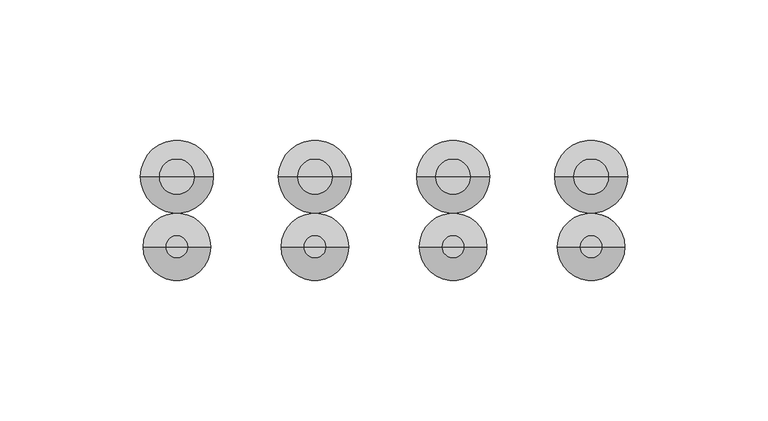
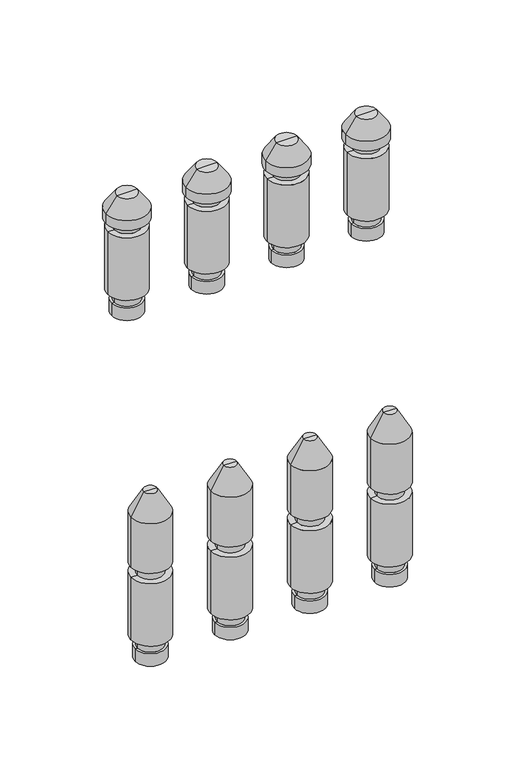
"""IFC4 building model written with IfcOpenShell, lengths in millimetres: valve geometry, PL AT_Manifold_FT-EV : 11 circuits."""

from ifc_helpers import new_model, si_unit, frame, origin, place, context, project, spatial, polyline, circle_curve, source, transform, mapped, element, save
from ifc_brep_helpers import plane_surface, cylinder_surface, revolved_surface, advanced_brep


def valve_5647343c(model_context):
    return source(origin(), model_context, "Body", "AdvancedBrep", [
        advanced_brep(
        [(475.3, 0.0, -35.11267), (494.3, 0.0, -35.11267), (484.8, 0.0, -35.11267), (475.3, 0.0, -27.0369646), (494.3, 0.0, -27.0369646), (476.8, 0.0, -27.0369646), (492.8, 0.0, -27.0369646), (476.8, 0.0, -20.330253), (492.8, 0.0, -20.330253), (472.8, 0.0, -20.330253), (496.8, 0.0, -20.330253), (472.8, 0.0, 20.330253), (496.8, 0.0, 20.330253), (476.8, 0.0, 20.330253), (492.8, 0.0, 20.330253), (476.8, 0.0, 27.0474786), (492.8, 0.0, 27.0474786), (472.8, 0.0, 27.0474786), (496.8, 0.0, 27.0474786), (472.8, 0.0, 59.4084325), (496.8, 0.0, 59.4084325), (480.8, 0.0, 73.264839), (488.8, 0.0, 73.264839), (484.8, 0.0, 73.264839)],
        [
            (0, 1, circle_curve(frame((484.8, 0.0, -35.11267), z_axis=(0.0, 0.0, -1.0), x_axis=(1.0, 0.0, 0.0)), 9.5)),
            (1, 2),
            (2, 0),
            (1, 0, circle_curve(frame((484.8, 0.0, -35.11267), z_axis=(0.0, 0.0, -1.0), x_axis=(1.0, 0.0, 0.0)), 9.5)),
            (3, 4, circle_curve(frame((484.8, 0.0, -27.0369646), z_axis=(0.0, 0.0, -1.0), x_axis=(1.0, 0.0, 0.0)), 9.5)),
            (4, 1),
            (0, 3),
            (4, 3, circle_curve(frame((484.8, 0.0, -27.0369646), z_axis=(0.0, 0.0, -1.0), x_axis=(1.0, 0.0, 0.0)), 9.5)),
            (5, 6, circle_curve(frame((484.8, 0.0, -27.0369646), z_axis=(0.0, 0.0, -1.0), x_axis=(1.0, 0.0, 0.0)), 8.0)),
            (6, 4),
            (3, 5),
            (6, 5, circle_curve(frame((484.8, 0.0, -27.0369646), z_axis=(0.0, 0.0, -1.0), x_axis=(1.0, 0.0, 0.0)), 8.0)),
            (7, 8, circle_curve(frame((484.8, 0.0, -20.330253), z_axis=(0.0, 0.0, -1.0), x_axis=(1.0, 0.0, 0.0)), 8.0)),
            (8, 6),
            (5, 7),
            (8, 7, circle_curve(frame((484.8, 0.0, -20.330253), z_axis=(0.0, 0.0, -1.0), x_axis=(1.0, 0.0, 0.0)), 8.0)),
            (9, 10, circle_curve(frame((484.8, 0.0, -20.330253), z_axis=(0.0, 0.0, -1.0), x_axis=(1.0, 0.0, 0.0)), 12.0)),
            (10, 8),
            (7, 9),
            (10, 9, circle_curve(frame((484.8, 0.0, -20.330253), z_axis=(0.0, 0.0, -1.0), x_axis=(1.0, 0.0, 0.0)), 12.0)),
            (11, 12, circle_curve(frame((484.8, 0.0, 20.330253), z_axis=(0.0, 0.0, -1.0), x_axis=(1.0, 0.0, 0.0)), 12.0)),
            (12, 10),
            (9, 11),
            (12, 11, circle_curve(frame((484.8, 0.0, 20.330253), z_axis=(0.0, 0.0, -1.0), x_axis=(1.0, 0.0, 0.0)), 12.0)),
            (13, 14, circle_curve(frame((484.8, 0.0, 20.330253), z_axis=(0.0, 0.0, -1.0), x_axis=(1.0, 0.0, 0.0)), 8.0)),
            (14, 12),
            (11, 13),
            (14, 13, circle_curve(frame((484.8, 0.0, 20.330253), z_axis=(0.0, 0.0, -1.0), x_axis=(1.0, 0.0, 0.0)), 8.0)),
            (15, 16, circle_curve(frame((484.8, 0.0, 27.0474786), z_axis=(0.0, 0.0, -1.0), x_axis=(1.0, 0.0, 0.0)), 8.0)),
            (16, 14),
            (13, 15),
            (16, 15, circle_curve(frame((484.8, 0.0, 27.0474786), z_axis=(0.0, 0.0, -1.0), x_axis=(1.0, 0.0, 0.0)), 8.0)),
            (17, 18, circle_curve(frame((484.8, 0.0, 27.0474786), z_axis=(0.0, 0.0, -1.0), x_axis=(1.0, 0.0, 0.0)), 12.0)),
            (18, 16),
            (15, 17),
            (18, 17, circle_curve(frame((484.8, 0.0, 27.0474786), z_axis=(0.0, 0.0, -1.0), x_axis=(1.0, 0.0, 0.0)), 12.0)),
            (19, 20, circle_curve(frame((484.8, 0.0, 59.4084325), z_axis=(0.0, 0.0, -1.0), x_axis=(1.0, 0.0, 0.0)), 12.0)),
            (20, 18),
            (17, 19),
            (20, 19, circle_curve(frame((484.8, 0.0, 59.4084325), z_axis=(0.0, 0.0, -1.0), x_axis=(1.0, 0.0, 0.0)), 12.0)),
            (21, 22, circle_curve(frame((484.8, 0.0, 73.264839), z_axis=(0.0, 0.0, -1.0), x_axis=(1.0, 0.0, 0.0)), 4.0)),
            (22, 20),
            (19, 21),
            (22, 21, circle_curve(frame((484.8, 0.0, 73.264839), z_axis=(0.0, 0.0, -1.0), x_axis=(1.0, 0.0, 0.0)), 4.0)),
            (23, 22),
            (21, 23),
        ],
        [
            plane_surface(frame((484.8, 0.0, -35.11267), z_axis=(0.0, 0.0, -1.0), x_axis=(1.0, 0.0, 0.0))),
            cylinder_surface(frame((484.8, 0.0, 58.264839), z_axis=(0.0, 0.0, 1.0), x_axis=(1.0, 0.0, 0.0)), 9.5),
            plane_surface(frame((484.8, 0.0, -27.0369646), z_axis=(0.0, 0.0, 1.0), x_axis=(1.0, 0.0, 0.0))),
            cylinder_surface(frame((484.8, 0.0, 58.264839), z_axis=(0.0, 0.0, 1.0), x_axis=(1.0, 0.0, 0.0)), 8.0),
            plane_surface(frame((484.8, 0.0, -20.330253), z_axis=(0.0, 0.0, -1.0), x_axis=(1.0, 0.0, 0.0))),
            cylinder_surface(frame((484.8, 0.0, 58.264839), z_axis=(0.0, 0.0, 1.0), x_axis=(1.0, 0.0, 0.0)), 12.0),
            plane_surface(frame((484.8, 0.0, 20.330253), z_axis=(0.0, 0.0, 1.0), x_axis=(1.0, 0.0, 0.0))),
            plane_surface(frame((484.8, 0.0, 27.0474786), z_axis=(0.0, 0.0, -1.0), x_axis=(1.0, 0.0, 0.0))),
            revolved_surface(polyline([(496.8, 0.0, 59.4084325), (488.8, 0.0, 73.264839)]), (484.8, 0.0, 58.264839), (0.0, 0.0, 1.0)),
            plane_surface(frame((484.8, 0.0, 73.264839), z_axis=(0.0, 0.0, 1.0), x_axis=(1.0, 0.0, 0.0))),
        ],
        [
            (0, [[1, 2, 3]]),
            (0, [[4, -3, -2]]),
            (1, [[5, 6, -1, 7]]),
            (1, [[8, -7, -4, -6]]),
            (2, [[9, 10, -5, 11]]),
            (2, [[12, -11, -8, -10]]),
            (3, [[13, 14, -9, 15]]),
            (3, [[16, -15, -12, -14]]),
            (4, [[17, 18, -13, 19]]),
            (4, [[20, -19, -16, -18]]),
            (5, [[21, 22, -17, 23]]),
            (5, [[24, -23, -20, -22]]),
            (6, [[25, 26, -21, 27]]),
            (6, [[28, -27, -24, -26]]),
            (3, [[29, 30, -25, 31]]),
            (3, [[32, -31, -28, -30]]),
            (7, [[33, 34, -29, 35]]),
            (7, [[36, -35, -32, -34]]),
            (5, [[37, 38, -33, 39]]),
            (5, [[40, -39, -36, -38]]),
            (8, [[41, 42, -37, 43]]),
            (8, [[44, -43, -40, -42]]),
            (9, [[45, -41, 46]]),
            (9, [[-46, -44, -45]]),
        ],
    ),
        advanced_brep(
        [(426.1, 0.0, -35.11267), (445.1, 0.0, -35.11267), (435.6, 0.0, -35.11267), (426.1, 0.0, -27.0369646), (445.1, 0.0, -27.0369646), (427.6, 0.0, -27.0369646), (443.6, 0.0, -27.0369646), (427.6, 0.0, -20.330253), (443.6, 0.0, -20.330253), (423.6, 0.0, -20.330253), (447.6, 0.0, -20.330253), (423.6, 0.0, 20.330253), (447.6, 0.0, 20.330253), (427.6, 0.0, 20.330253), (443.6, 0.0, 20.330253), (427.6, 0.0, 27.0474786), (443.6, 0.0, 27.0474786), (423.6, 0.0, 27.0474786), (447.6, 0.0, 27.0474786), (423.6, 0.0, 59.4084325), (447.6, 0.0, 59.4084325), (431.6, 0.0, 73.264839), (439.6, 0.0, 73.264839), (435.6, 0.0, 73.264839)],
        [
            (0, 1, circle_curve(frame((435.6, 0.0, -35.11267), z_axis=(0.0, 0.0, -1.0), x_axis=(1.0, 0.0, 0.0)), 9.5)),
            (1, 2),
            (2, 0),
            (1, 0, circle_curve(frame((435.6, 0.0, -35.11267), z_axis=(0.0, 0.0, -1.0), x_axis=(1.0, 0.0, 0.0)), 9.5)),
            (3, 4, circle_curve(frame((435.6, 0.0, -27.0369646), z_axis=(0.0, 0.0, -1.0), x_axis=(1.0, 0.0, 0.0)), 9.5)),
            (4, 1),
            (0, 3),
            (4, 3, circle_curve(frame((435.6, 0.0, -27.0369646), z_axis=(0.0, 0.0, -1.0), x_axis=(1.0, 0.0, 0.0)), 9.5)),
            (5, 6, circle_curve(frame((435.6, 0.0, -27.0369646), z_axis=(0.0, 0.0, -1.0), x_axis=(1.0, 0.0, 0.0)), 8.0)),
            (6, 4),
            (3, 5),
            (6, 5, circle_curve(frame((435.6, 0.0, -27.0369646), z_axis=(0.0, 0.0, -1.0), x_axis=(1.0, 0.0, 0.0)), 8.0)),
            (7, 8, circle_curve(frame((435.6, 0.0, -20.330253), z_axis=(0.0, 0.0, -1.0), x_axis=(1.0, 0.0, 0.0)), 8.0)),
            (8, 6),
            (5, 7),
            (8, 7, circle_curve(frame((435.6, 0.0, -20.330253), z_axis=(0.0, 0.0, -1.0), x_axis=(1.0, 0.0, 0.0)), 8.0)),
            (9, 10, circle_curve(frame((435.6, 0.0, -20.330253), z_axis=(0.0, 0.0, -1.0), x_axis=(1.0, 0.0, 0.0)), 12.0)),
            (10, 8),
            (7, 9),
            (10, 9, circle_curve(frame((435.6, 0.0, -20.330253), z_axis=(0.0, 0.0, -1.0), x_axis=(1.0, 0.0, 0.0)), 12.0)),
            (11, 12, circle_curve(frame((435.6, 0.0, 20.330253), z_axis=(0.0, 0.0, -1.0), x_axis=(1.0, 0.0, 0.0)), 12.0)),
            (12, 10),
            (9, 11),
            (12, 11, circle_curve(frame((435.6, 0.0, 20.330253), z_axis=(0.0, 0.0, -1.0), x_axis=(1.0, 0.0, 0.0)), 12.0)),
            (13, 14, circle_curve(frame((435.6, 0.0, 20.330253), z_axis=(0.0, 0.0, -1.0), x_axis=(1.0, 0.0, 0.0)), 8.0)),
            (14, 12),
            (11, 13),
            (14, 13, circle_curve(frame((435.6, 0.0, 20.330253), z_axis=(0.0, 0.0, -1.0), x_axis=(1.0, 0.0, 0.0)), 8.0)),
            (15, 16, circle_curve(frame((435.6, 0.0, 27.0474786), z_axis=(0.0, 0.0, -1.0), x_axis=(1.0, 0.0, 0.0)), 8.0)),
            (16, 14),
            (13, 15),
            (16, 15, circle_curve(frame((435.6, 0.0, 27.0474786), z_axis=(0.0, 0.0, -1.0), x_axis=(1.0, 0.0, 0.0)), 8.0)),
            (17, 18, circle_curve(frame((435.6, 0.0, 27.0474786), z_axis=(0.0, 0.0, -1.0), x_axis=(1.0, 0.0, 0.0)), 12.0)),
            (18, 16),
            (15, 17),
            (18, 17, circle_curve(frame((435.6, 0.0, 27.0474786), z_axis=(0.0, 0.0, -1.0), x_axis=(1.0, 0.0, 0.0)), 12.0)),
            (19, 20, circle_curve(frame((435.6, 0.0, 59.4084325), z_axis=(0.0, 0.0, -1.0), x_axis=(1.0, 0.0, 0.0)), 12.0)),
            (20, 18),
            (17, 19),
            (20, 19, circle_curve(frame((435.6, 0.0, 59.4084325), z_axis=(0.0, 0.0, -1.0), x_axis=(1.0, 0.0, 0.0)), 12.0)),
            (21, 22, circle_curve(frame((435.6, 0.0, 73.264839), z_axis=(0.0, 0.0, -1.0), x_axis=(1.0, 0.0, 0.0)), 4.0)),
            (22, 20),
            (19, 21),
            (22, 21, circle_curve(frame((435.6, 0.0, 73.264839), z_axis=(0.0, 0.0, -1.0), x_axis=(1.0, 0.0, 0.0)), 4.0)),
            (23, 22),
            (21, 23),
        ],
        [
            plane_surface(frame((435.6, 0.0, -35.11267), z_axis=(0.0, 0.0, -1.0), x_axis=(1.0, 0.0, 0.0))),
            cylinder_surface(frame((435.6, 0.0, 58.264839), z_axis=(0.0, 0.0, 1.0), x_axis=(1.0, 0.0, 0.0)), 9.5),
            plane_surface(frame((435.6, 0.0, -27.0369646), z_axis=(0.0, 0.0, 1.0), x_axis=(1.0, 0.0, 0.0))),
            cylinder_surface(frame((435.6, 0.0, 58.264839), z_axis=(0.0, 0.0, 1.0), x_axis=(1.0, 0.0, 0.0)), 8.0),
            plane_surface(frame((435.6, 0.0, -20.330253), z_axis=(0.0, 0.0, -1.0), x_axis=(1.0, 0.0, 0.0))),
            cylinder_surface(frame((435.6, 0.0, 58.264839), z_axis=(0.0, 0.0, 1.0), x_axis=(1.0, 0.0, 0.0)), 12.0),
            plane_surface(frame((435.6, 0.0, 20.330253), z_axis=(0.0, 0.0, 1.0), x_axis=(1.0, 0.0, 0.0))),
            plane_surface(frame((435.6, 0.0, 27.0474786), z_axis=(0.0, 0.0, -1.0), x_axis=(1.0, 0.0, 0.0))),
            revolved_surface(polyline([(447.6, 0.0, 59.4084325), (439.6, 0.0, 73.264839)]), (435.6, 0.0, 58.264839), (0.0, 0.0, 1.0)),
            plane_surface(frame((435.6, 0.0, 73.264839), z_axis=(0.0, 0.0, 1.0), x_axis=(1.0, 0.0, 0.0))),
        ],
        [
            (0, [[1, 2, 3]]),
            (0, [[4, -3, -2]]),
            (1, [[5, 6, -1, 7]]),
            (1, [[8, -7, -4, -6]]),
            (2, [[9, 10, -5, 11]]),
            (2, [[12, -11, -8, -10]]),
            (3, [[13, 14, -9, 15]]),
            (3, [[16, -15, -12, -14]]),
            (4, [[17, 18, -13, 19]]),
            (4, [[20, -19, -16, -18]]),
            (5, [[21, 22, -17, 23]]),
            (5, [[24, -23, -20, -22]]),
            (6, [[25, 26, -21, 27]]),
            (6, [[28, -27, -24, -26]]),
            (3, [[29, 30, -25, 31]]),
            (3, [[32, -31, -28, -30]]),
            (7, [[33, 34, -29, 35]]),
            (7, [[36, -35, -32, -34]]),
            (5, [[37, 38, -33, 39]]),
            (5, [[40, -39, -36, -38]]),
            (8, [[41, 42, -37, 43]]),
            (8, [[44, -43, -40, -42]]),
            (9, [[45, -41, 46]]),
            (9, [[-46, -44, -45]]),
        ],
    ),
        advanced_brep(
        [(376.9, 0.0, -35.11267), (395.9, 0.0, -35.11267), (386.4, 0.0, -35.11267), (376.9, 0.0, -27.0369646), (395.9, 0.0, -27.0369646), (378.4, 0.0, -27.0369646), (394.4, 0.0, -27.0369646), (378.4, 0.0, -20.330253), (394.4, 0.0, -20.330253), (374.4, 0.0, -20.330253), (398.4, 0.0, -20.330253), (374.4, 0.0, 20.330253), (398.4, 0.0, 20.330253), (378.4, 0.0, 20.330253), (394.4, 0.0, 20.330253), (378.4, 0.0, 27.0474786), (394.4, 0.0, 27.0474786), (374.4, 0.0, 27.0474786), (398.4, 0.0, 27.0474786), (374.4, 0.0, 59.4084325), (398.4, 0.0, 59.4084325), (382.4, 0.0, 73.264839), (390.4, 0.0, 73.264839), (386.4, 0.0, 73.264839)],
        [
            (0, 1, circle_curve(frame((386.4, 0.0, -35.11267), z_axis=(0.0, 0.0, -1.0), x_axis=(1.0, 0.0, 0.0)), 9.5)),
            (1, 2),
            (2, 0),
            (1, 0, circle_curve(frame((386.4, 0.0, -35.11267), z_axis=(0.0, 0.0, -1.0), x_axis=(1.0, 0.0, 0.0)), 9.5)),
            (3, 4, circle_curve(frame((386.4, 0.0, -27.0369646), z_axis=(0.0, 0.0, -1.0), x_axis=(1.0, 0.0, 0.0)), 9.5)),
            (4, 1),
            (0, 3),
            (4, 3, circle_curve(frame((386.4, 0.0, -27.0369646), z_axis=(0.0, 0.0, -1.0), x_axis=(1.0, 0.0, 0.0)), 9.5)),
            (5, 6, circle_curve(frame((386.4, 0.0, -27.0369646), z_axis=(0.0, 0.0, -1.0), x_axis=(1.0, 0.0, 0.0)), 8.0)),
            (6, 4),
            (3, 5),
            (6, 5, circle_curve(frame((386.4, 0.0, -27.0369646), z_axis=(0.0, 0.0, -1.0), x_axis=(1.0, 0.0, 0.0)), 8.0)),
            (7, 8, circle_curve(frame((386.4, 0.0, -20.330253), z_axis=(0.0, 0.0, -1.0), x_axis=(1.0, 0.0, 0.0)), 8.0)),
            (8, 6),
            (5, 7),
            (8, 7, circle_curve(frame((386.4, 0.0, -20.330253), z_axis=(0.0, 0.0, -1.0), x_axis=(1.0, 0.0, 0.0)), 8.0)),
            (9, 10, circle_curve(frame((386.4, 0.0, -20.330253), z_axis=(0.0, 0.0, -1.0), x_axis=(1.0, 0.0, 0.0)), 12.0)),
            (10, 8),
            (7, 9),
            (10, 9, circle_curve(frame((386.4, 0.0, -20.330253), z_axis=(0.0, 0.0, -1.0), x_axis=(1.0, 0.0, 0.0)), 12.0)),
            (11, 12, circle_curve(frame((386.4, 0.0, 20.330253), z_axis=(0.0, 0.0, -1.0), x_axis=(1.0, 0.0, 0.0)), 12.0)),
            (12, 10),
            (9, 11),
            (12, 11, circle_curve(frame((386.4, 0.0, 20.330253), z_axis=(0.0, 0.0, -1.0), x_axis=(1.0, 0.0, 0.0)), 12.0)),
            (13, 14, circle_curve(frame((386.4, 0.0, 20.330253), z_axis=(0.0, 0.0, -1.0), x_axis=(1.0, 0.0, 0.0)), 8.0)),
            (14, 12),
            (11, 13),
            (14, 13, circle_curve(frame((386.4, 0.0, 20.330253), z_axis=(0.0, 0.0, -1.0), x_axis=(1.0, 0.0, 0.0)), 8.0)),
            (15, 16, circle_curve(frame((386.4, 0.0, 27.0474786), z_axis=(0.0, 0.0, -1.0), x_axis=(1.0, 0.0, 0.0)), 8.0)),
            (16, 14),
            (13, 15),
            (16, 15, circle_curve(frame((386.4, 0.0, 27.0474786), z_axis=(0.0, 0.0, -1.0), x_axis=(1.0, 0.0, 0.0)), 8.0)),
            (17, 18, circle_curve(frame((386.4, 0.0, 27.0474786), z_axis=(0.0, 0.0, -1.0), x_axis=(1.0, 0.0, 0.0)), 12.0)),
            (18, 16),
            (15, 17),
            (18, 17, circle_curve(frame((386.4, 0.0, 27.0474786), z_axis=(0.0, 0.0, -1.0), x_axis=(1.0, 0.0, 0.0)), 12.0)),
            (19, 20, circle_curve(frame((386.4, 0.0, 59.4084325), z_axis=(0.0, 0.0, -1.0), x_axis=(1.0, 0.0, 0.0)), 12.0)),
            (20, 18),
            (17, 19),
            (20, 19, circle_curve(frame((386.4, 0.0, 59.4084325), z_axis=(0.0, 0.0, -1.0), x_axis=(1.0, 0.0, 0.0)), 12.0)),
            (21, 22, circle_curve(frame((386.4, 0.0, 73.264839), z_axis=(0.0, 0.0, -1.0), x_axis=(1.0, 0.0, 0.0)), 4.0)),
            (22, 20),
            (19, 21),
            (22, 21, circle_curve(frame((386.4, 0.0, 73.264839), z_axis=(0.0, 0.0, -1.0), x_axis=(1.0, 0.0, 0.0)), 4.0)),
            (23, 22),
            (21, 23),
        ],
        [
            plane_surface(frame((386.4, 0.0, -35.11267), z_axis=(0.0, 0.0, -1.0), x_axis=(1.0, 0.0, 0.0))),
            cylinder_surface(frame((386.4, 0.0, 58.264839), z_axis=(0.0, 0.0, 1.0), x_axis=(1.0, 0.0, 0.0)), 9.5),
            plane_surface(frame((386.4, 0.0, -27.0369646), z_axis=(0.0, 0.0, 1.0), x_axis=(1.0, 0.0, 0.0))),
            cylinder_surface(frame((386.4, 0.0, 58.264839), z_axis=(0.0, 0.0, 1.0), x_axis=(1.0, 0.0, 0.0)), 8.0),
            plane_surface(frame((386.4, 0.0, -20.330253), z_axis=(0.0, 0.0, -1.0), x_axis=(1.0, 0.0, 0.0))),
            cylinder_surface(frame((386.4, 0.0, 58.264839), z_axis=(0.0, 0.0, 1.0), x_axis=(1.0, 0.0, 0.0)), 12.0),
            plane_surface(frame((386.4, 0.0, 20.330253), z_axis=(0.0, 0.0, 1.0), x_axis=(1.0, 0.0, 0.0))),
            plane_surface(frame((386.4, 0.0, 27.0474786), z_axis=(0.0, 0.0, -1.0), x_axis=(1.0, 0.0, 0.0))),
            revolved_surface(polyline([(398.4, 0.0, 59.4084325), (390.4, 0.0, 73.264839)]), (386.4, 0.0, 58.264839), (0.0, 0.0, 1.0)),
            plane_surface(frame((386.4, 0.0, 73.264839), z_axis=(0.0, 0.0, 1.0), x_axis=(1.0, 0.0, 0.0))),
        ],
        [
            (0, [[1, 2, 3]]),
            (0, [[4, -3, -2]]),
            (1, [[5, 6, -1, 7]]),
            (1, [[8, -7, -4, -6]]),
            (2, [[9, 10, -5, 11]]),
            (2, [[12, -11, -8, -10]]),
            (3, [[13, 14, -9, 15]]),
            (3, [[16, -15, -12, -14]]),
            (4, [[17, 18, -13, 19]]),
            (4, [[20, -19, -16, -18]]),
            (5, [[21, 22, -17, 23]]),
            (5, [[24, -23, -20, -22]]),
            (6, [[25, 26, -21, 27]]),
            (6, [[28, -27, -24, -26]]),
            (3, [[29, 30, -25, 31]]),
            (3, [[32, -31, -28, -30]]),
            (7, [[33, 34, -29, 35]]),
            (7, [[36, -35, -32, -34]]),
            (5, [[37, 38, -33, 39]]),
            (5, [[40, -39, -36, -38]]),
            (8, [[41, 42, -37, 43]]),
            (8, [[44, -43, -40, -42]]),
            (9, [[45, -41, 46]]),
            (9, [[-46, -44, -45]]),
        ],
    ),
        advanced_brep(
        [(475.3, 25.0, 174.88733), (494.3, 25.0, 174.88733), (484.8, 25.0, 174.88733), (475.3, 25.0, 182.9630354), (494.3, 25.0, 182.9630354), (476.8, 25.0, 182.9630354), (492.8, 25.0, 182.9630354), (476.8, 25.0, 189.669747), (492.8, 25.0, 189.669747), (472.8, 25.0, 189.669747), (496.8, 25.0, 189.669747), (472.8, 25.0, 230.330253), (496.8, 25.0, 230.330253), (476.8, 25.0, 230.330253), (492.8, 25.0, 230.330253), (476.8, 25.0, 236.0474786), (492.8, 25.0, 236.0474786), (471.8, 25.0, 236.0474786), (497.8, 25.0, 236.0474786), (471.8, 25.0, 242.337955), (497.8, 25.0, 242.337955), (478.4551779, 25.0, 251.842534), (491.1448221, 25.0, 251.842534), (484.8, 25.0, 251.842534)],
        [
            (0, 1, circle_curve(frame((484.8, 25.0, 174.88733), z_axis=(0.0, 0.0, -1.0), x_axis=(1.0, 0.0, 0.0)), 9.5)),
            (1, 2),
            (2, 0),
            (1, 0, circle_curve(frame((484.8, 25.0, 174.88733), z_axis=(0.0, 0.0, -1.0), x_axis=(1.0, 0.0, 0.0)), 9.5)),
            (3, 4, circle_curve(frame((484.8, 25.0, 182.9630354), z_axis=(0.0, 0.0, -1.0), x_axis=(1.0, 0.0, 0.0)), 9.5)),
            (4, 1),
            (0, 3),
            (4, 3, circle_curve(frame((484.8, 25.0, 182.9630354), z_axis=(0.0, 0.0, -1.0), x_axis=(1.0, 0.0, 0.0)), 9.5)),
            (5, 6, circle_curve(frame((484.8, 25.0, 182.9630354), z_axis=(0.0, 0.0, -1.0), x_axis=(1.0, 0.0, 0.0)), 8.0)),
            (6, 4),
            (3, 5),
            (6, 5, circle_curve(frame((484.8, 25.0, 182.9630354), z_axis=(0.0, 0.0, -1.0), x_axis=(1.0, 0.0, 0.0)), 8.0)),
            (7, 8, circle_curve(frame((484.8, 25.0, 189.669747), z_axis=(0.0, 0.0, -1.0), x_axis=(1.0, 0.0, 0.0)), 8.0)),
            (8, 6),
            (5, 7),
            (8, 7, circle_curve(frame((484.8, 25.0, 189.669747), z_axis=(0.0, 0.0, -1.0), x_axis=(1.0, 0.0, 0.0)), 8.0)),
            (9, 10, circle_curve(frame((484.8, 25.0, 189.669747), z_axis=(0.0, 0.0, -1.0), x_axis=(1.0, 0.0, 0.0)), 12.0)),
            (10, 8),
            (7, 9),
            (10, 9, circle_curve(frame((484.8, 25.0, 189.669747), z_axis=(0.0, 0.0, -1.0), x_axis=(1.0, 0.0, 0.0)), 12.0)),
            (11, 12, circle_curve(frame((484.8, 25.0, 230.330253), z_axis=(0.0, 0.0, -1.0), x_axis=(1.0, 0.0, 0.0)), 12.0)),
            (12, 10),
            (9, 11),
            (12, 11, circle_curve(frame((484.8, 25.0, 230.330253), z_axis=(0.0, 0.0, -1.0), x_axis=(1.0, 0.0, 0.0)), 12.0)),
            (13, 14, circle_curve(frame((484.8, 25.0, 230.330253), z_axis=(0.0, 0.0, -1.0), x_axis=(1.0, 0.0, 0.0)), 8.0)),
            (14, 12),
            (11, 13),
            (14, 13, circle_curve(frame((484.8, 25.0, 230.330253), z_axis=(0.0, 0.0, -1.0), x_axis=(1.0, 0.0, 0.0)), 8.0)),
            (15, 16, circle_curve(frame((484.8, 25.0, 236.0474786), z_axis=(0.0, 0.0, -1.0), x_axis=(1.0, 0.0, 0.0)), 8.0)),
            (16, 14),
            (13, 15),
            (16, 15, circle_curve(frame((484.8, 25.0, 236.0474786), z_axis=(0.0, 0.0, -1.0), x_axis=(1.0, 0.0, 0.0)), 8.0)),
            (17, 18, circle_curve(frame((484.8, 25.0, 236.0474786), z_axis=(0.0, 0.0, -1.0), x_axis=(1.0, 0.0, 0.0)), 13.0)),
            (18, 16),
            (15, 17),
            (18, 17, circle_curve(frame((484.8, 25.0, 236.0474786), z_axis=(0.0, 0.0, -1.0), x_axis=(1.0, 0.0, 0.0)), 13.0)),
            (19, 20, circle_curve(frame((484.8, 25.0, 242.337955), z_axis=(0.0, 0.0, -1.0), x_axis=(1.0, 0.0, 0.0)), 13.0)),
            (20, 18),
            (17, 19),
            (20, 19, circle_curve(frame((484.8, 25.0, 242.337955), z_axis=(0.0, 0.0, -1.0), x_axis=(1.0, 0.0, 0.0)), 13.0)),
            (21, 22, circle_curve(frame((484.8, 25.0, 251.842534), z_axis=(0.0, 0.0, -1.0), x_axis=(1.0, 0.0, 0.0)), 6.3448221)),
            (22, 20),
            (19, 21),
            (22, 21, circle_curve(frame((484.8, 25.0, 251.842534), z_axis=(0.0, 0.0, -1.0), x_axis=(1.0, 0.0, 0.0)), 6.3448221)),
            (23, 22),
            (21, 23),
        ],
        [
            plane_surface(frame((484.8, 25.0, 174.88733), z_axis=(0.0, 0.0, -1.0), x_axis=(1.0, 0.0, 0.0))),
            cylinder_surface(frame((484.8, 25.0, 247.7026565), z_axis=(0.0, 0.0, 1.0), x_axis=(1.0, 0.0, 0.0)), 9.5),
            plane_surface(frame((484.8, 25.0, 182.9630354), z_axis=(0.0, 0.0, 1.0), x_axis=(1.0, 0.0, 0.0))),
            cylinder_surface(frame((484.8, 25.0, 247.7026565), z_axis=(0.0, 0.0, 1.0), x_axis=(1.0, 0.0, 0.0)), 8.0),
            plane_surface(frame((484.8, 25.0, 189.669747), z_axis=(0.0, 0.0, -1.0), x_axis=(1.0, 0.0, 0.0))),
            cylinder_surface(frame((484.8, 25.0, 247.7026565), z_axis=(0.0, 0.0, 1.0), x_axis=(1.0, 0.0, 0.0)), 12.0),
            plane_surface(frame((484.8, 25.0, 230.330253), z_axis=(0.0, 0.0, 1.0), x_axis=(1.0, 0.0, 0.0))),
            plane_surface(frame((484.8, 25.0, 236.0474786), z_axis=(0.0, 0.0, -1.0), x_axis=(1.0, 0.0, 0.0))),
            cylinder_surface(frame((484.8, 25.0, 247.7026565), z_axis=(0.0, 0.0, 1.0), x_axis=(1.0, 0.0, 0.0)), 13.0),
            revolved_surface(polyline([(497.8, 25.0, 242.337955), (491.1448221, 25.0, 251.842534)]), (484.8, 25.0, 247.7026565), (0.0, 0.0, 1.0)),
            plane_surface(frame((484.8, 25.0, 251.842534), z_axis=(0.0, 0.0, 1.0), x_axis=(1.0, 0.0, 0.0))),
        ],
        [
            (0, [[1, 2, 3]]),
            (0, [[4, -3, -2]]),
            (1, [[5, 6, -1, 7]]),
            (1, [[8, -7, -4, -6]]),
            (2, [[9, 10, -5, 11]]),
            (2, [[12, -11, -8, -10]]),
            (3, [[13, 14, -9, 15]]),
            (3, [[16, -15, -12, -14]]),
            (4, [[17, 18, -13, 19]]),
            (4, [[20, -19, -16, -18]]),
            (5, [[21, 22, -17, 23]]),
            (5, [[24, -23, -20, -22]]),
            (6, [[25, 26, -21, 27]]),
            (6, [[28, -27, -24, -26]]),
            (3, [[29, 30, -25, 31]]),
            (3, [[32, -31, -28, -30]]),
            (7, [[33, 34, -29, 35]]),
            (7, [[36, -35, -32, -34]]),
            (8, [[37, 38, -33, 39]]),
            (8, [[40, -39, -36, -38]]),
            (9, [[41, 42, -37, 43]]),
            (9, [[44, -43, -40, -42]]),
            (10, [[45, -41, 46]]),
            (10, [[-46, -44, -45]]),
        ],
    ),
        advanced_brep(
        [(426.1, 25.0, 174.88733), (445.1, 25.0, 174.88733), (435.6, 25.0, 174.88733), (426.1, 25.0, 182.9630354), (445.1, 25.0, 182.9630354), (427.6, 25.0, 182.9630354), (443.6, 25.0, 182.9630354), (427.6, 25.0, 189.669747), (443.6, 25.0, 189.669747), (423.6, 25.0, 189.669747), (447.6, 25.0, 189.669747), (423.6, 25.0, 230.330253), (447.6, 25.0, 230.330253), (427.6, 25.0, 230.330253), (443.6, 25.0, 230.330253), (427.6, 25.0, 236.0474786), (443.6, 25.0, 236.0474786), (422.6, 25.0, 236.0474786), (448.6, 25.0, 236.0474786), (422.6, 25.0, 242.337955), (448.6, 25.0, 242.337955), (429.2551779, 25.0, 251.842534), (441.9448221, 25.0, 251.842534), (435.6, 25.0, 251.842534)],
        [
            (0, 1, circle_curve(frame((435.6, 25.0, 174.88733), z_axis=(0.0, 0.0, -1.0), x_axis=(1.0, 0.0, 0.0)), 9.5)),
            (1, 2),
            (2, 0),
            (1, 0, circle_curve(frame((435.6, 25.0, 174.88733), z_axis=(0.0, 0.0, -1.0), x_axis=(1.0, 0.0, 0.0)), 9.5)),
            (3, 4, circle_curve(frame((435.6, 25.0, 182.9630354), z_axis=(0.0, 0.0, -1.0), x_axis=(1.0, 0.0, 0.0)), 9.5)),
            (4, 1),
            (0, 3),
            (4, 3, circle_curve(frame((435.6, 25.0, 182.9630354), z_axis=(0.0, 0.0, -1.0), x_axis=(1.0, 0.0, 0.0)), 9.5)),
            (5, 6, circle_curve(frame((435.6, 25.0, 182.9630354), z_axis=(0.0, 0.0, -1.0), x_axis=(1.0, 0.0, 0.0)), 8.0)),
            (6, 4),
            (3, 5),
            (6, 5, circle_curve(frame((435.6, 25.0, 182.9630354), z_axis=(0.0, 0.0, -1.0), x_axis=(1.0, 0.0, 0.0)), 8.0)),
            (7, 8, circle_curve(frame((435.6, 25.0, 189.669747), z_axis=(0.0, 0.0, -1.0), x_axis=(1.0, 0.0, 0.0)), 8.0)),
            (8, 6),
            (5, 7),
            (8, 7, circle_curve(frame((435.6, 25.0, 189.669747), z_axis=(0.0, 0.0, -1.0), x_axis=(1.0, 0.0, 0.0)), 8.0)),
            (9, 10, circle_curve(frame((435.6, 25.0, 189.669747), z_axis=(0.0, 0.0, -1.0), x_axis=(1.0, 0.0, 0.0)), 12.0)),
            (10, 8),
            (7, 9),
            (10, 9, circle_curve(frame((435.6, 25.0, 189.669747), z_axis=(0.0, 0.0, -1.0), x_axis=(1.0, 0.0, 0.0)), 12.0)),
            (11, 12, circle_curve(frame((435.6, 25.0, 230.330253), z_axis=(0.0, 0.0, -1.0), x_axis=(1.0, 0.0, 0.0)), 12.0)),
            (12, 10),
            (9, 11),
            (12, 11, circle_curve(frame((435.6, 25.0, 230.330253), z_axis=(0.0, 0.0, -1.0), x_axis=(1.0, 0.0, 0.0)), 12.0)),
            (13, 14, circle_curve(frame((435.6, 25.0, 230.330253), z_axis=(0.0, 0.0, -1.0), x_axis=(1.0, 0.0, 0.0)), 8.0)),
            (14, 12),
            (11, 13),
            (14, 13, circle_curve(frame((435.6, 25.0, 230.330253), z_axis=(0.0, 0.0, -1.0), x_axis=(1.0, 0.0, 0.0)), 8.0)),
            (15, 16, circle_curve(frame((435.6, 25.0, 236.0474786), z_axis=(0.0, 0.0, -1.0), x_axis=(1.0, 0.0, 0.0)), 8.0)),
            (16, 14),
            (13, 15),
            (16, 15, circle_curve(frame((435.6, 25.0, 236.0474786), z_axis=(0.0, 0.0, -1.0), x_axis=(1.0, 0.0, 0.0)), 8.0)),
            (17, 18, circle_curve(frame((435.6, 25.0, 236.0474786), z_axis=(0.0, 0.0, -1.0), x_axis=(1.0, 0.0, 0.0)), 13.0)),
            (18, 16),
            (15, 17),
            (18, 17, circle_curve(frame((435.6, 25.0, 236.0474786), z_axis=(0.0, 0.0, -1.0), x_axis=(1.0, 0.0, 0.0)), 13.0)),
            (19, 20, circle_curve(frame((435.6, 25.0, 242.337955), z_axis=(0.0, 0.0, -1.0), x_axis=(1.0, 0.0, 0.0)), 13.0)),
            (20, 18),
            (17, 19),
            (20, 19, circle_curve(frame((435.6, 25.0, 242.337955), z_axis=(0.0, 0.0, -1.0), x_axis=(1.0, 0.0, 0.0)), 13.0)),
            (21, 22, circle_curve(frame((435.6, 25.0, 251.842534), z_axis=(0.0, 0.0, -1.0), x_axis=(1.0, 0.0, 0.0)), 6.3448221)),
            (22, 20),
            (19, 21),
            (22, 21, circle_curve(frame((435.6, 25.0, 251.842534), z_axis=(0.0, 0.0, -1.0), x_axis=(1.0, 0.0, 0.0)), 6.3448221)),
            (23, 22),
            (21, 23),
        ],
        [
            plane_surface(frame((435.6, 25.0, 174.88733), z_axis=(0.0, 0.0, -1.0), x_axis=(1.0, 0.0, 0.0))),
            cylinder_surface(frame((435.6, 25.0, 247.7026565), z_axis=(0.0, 0.0, 1.0), x_axis=(1.0, 0.0, 0.0)), 9.5),
            plane_surface(frame((435.6, 25.0, 182.9630354), z_axis=(0.0, 0.0, 1.0), x_axis=(1.0, 0.0, 0.0))),
            cylinder_surface(frame((435.6, 25.0, 247.7026565), z_axis=(0.0, 0.0, 1.0), x_axis=(1.0, 0.0, 0.0)), 8.0),
            plane_surface(frame((435.6, 25.0, 189.669747), z_axis=(0.0, 0.0, -1.0), x_axis=(1.0, 0.0, 0.0))),
            cylinder_surface(frame((435.6, 25.0, 247.7026565), z_axis=(0.0, 0.0, 1.0), x_axis=(1.0, 0.0, 0.0)), 12.0),
            plane_surface(frame((435.6, 25.0, 230.330253), z_axis=(0.0, 0.0, 1.0), x_axis=(1.0, 0.0, 0.0))),
            plane_surface(frame((435.6, 25.0, 236.0474786), z_axis=(0.0, 0.0, -1.0), x_axis=(1.0, 0.0, 0.0))),
            cylinder_surface(frame((435.6, 25.0, 247.7026565), z_axis=(0.0, 0.0, 1.0), x_axis=(1.0, 0.0, 0.0)), 13.0),
            revolved_surface(polyline([(448.6, 25.0, 242.337955), (441.9448221, 25.0, 251.842534)]), (435.6, 25.0, 247.7026565), (0.0, 0.0, 1.0)),
            plane_surface(frame((435.6, 25.0, 251.842534), z_axis=(0.0, 0.0, 1.0), x_axis=(1.0, 0.0, 0.0))),
        ],
        [
            (0, [[1, 2, 3]]),
            (0, [[4, -3, -2]]),
            (1, [[5, 6, -1, 7]]),
            (1, [[8, -7, -4, -6]]),
            (2, [[9, 10, -5, 11]]),
            (2, [[12, -11, -8, -10]]),
            (3, [[13, 14, -9, 15]]),
            (3, [[16, -15, -12, -14]]),
            (4, [[17, 18, -13, 19]]),
            (4, [[20, -19, -16, -18]]),
            (5, [[21, 22, -17, 23]]),
            (5, [[24, -23, -20, -22]]),
            (6, [[25, 26, -21, 27]]),
            (6, [[28, -27, -24, -26]]),
            (3, [[29, 30, -25, 31]]),
            (3, [[32, -31, -28, -30]]),
            (7, [[33, 34, -29, 35]]),
            (7, [[36, -35, -32, -34]]),
            (8, [[37, 38, -33, 39]]),
            (8, [[40, -39, -36, -38]]),
            (9, [[41, 42, -37, 43]]),
            (9, [[44, -43, -40, -42]]),
            (10, [[45, -41, 46]]),
            (10, [[-46, -44, -45]]),
        ],
    ),
        advanced_brep(
        [(376.9, 25.0, 174.88733), (395.9, 25.0, 174.88733), (386.4, 25.0, 174.88733), (376.9, 25.0, 182.9630354), (395.9, 25.0, 182.9630354), (378.4, 25.0, 182.9630354), (394.4, 25.0, 182.9630354), (378.4, 25.0, 189.669747), (394.4, 25.0, 189.669747), (374.4, 25.0, 189.669747), (398.4, 25.0, 189.669747), (374.4, 25.0, 230.330253), (398.4, 25.0, 230.330253), (378.4, 25.0, 230.330253), (394.4, 25.0, 230.330253), (378.4, 25.0, 236.0474786), (394.4, 25.0, 236.0474786), (373.4, 25.0, 236.0474786), (399.4, 25.0, 236.0474786), (373.4, 25.0, 242.337955), (399.4, 25.0, 242.337955), (380.0551779, 25.0, 251.842534), (392.7448221, 25.0, 251.842534), (386.4, 25.0, 251.842534)],
        [
            (0, 1, circle_curve(frame((386.4, 25.0, 174.88733), z_axis=(0.0, 0.0, -1.0), x_axis=(1.0, 0.0, 0.0)), 9.5)),
            (1, 2),
            (2, 0),
            (1, 0, circle_curve(frame((386.4, 25.0, 174.88733), z_axis=(0.0, 0.0, -1.0), x_axis=(1.0, 0.0, 0.0)), 9.5)),
            (3, 4, circle_curve(frame((386.4, 25.0, 182.9630354), z_axis=(0.0, 0.0, -1.0), x_axis=(1.0, 0.0, 0.0)), 9.5)),
            (4, 1),
            (0, 3),
            (4, 3, circle_curve(frame((386.4, 25.0, 182.9630354), z_axis=(0.0, 0.0, -1.0), x_axis=(1.0, 0.0, 0.0)), 9.5)),
            (5, 6, circle_curve(frame((386.4, 25.0, 182.9630354), z_axis=(0.0, 0.0, -1.0), x_axis=(1.0, 0.0, 0.0)), 8.0)),
            (6, 4),
            (3, 5),
            (6, 5, circle_curve(frame((386.4, 25.0, 182.9630354), z_axis=(0.0, 0.0, -1.0), x_axis=(1.0, 0.0, 0.0)), 8.0)),
            (7, 8, circle_curve(frame((386.4, 25.0, 189.669747), z_axis=(0.0, 0.0, -1.0), x_axis=(1.0, 0.0, 0.0)), 8.0)),
            (8, 6),
            (5, 7),
            (8, 7, circle_curve(frame((386.4, 25.0, 189.669747), z_axis=(0.0, 0.0, -1.0), x_axis=(1.0, 0.0, 0.0)), 8.0)),
            (9, 10, circle_curve(frame((386.4, 25.0, 189.669747), z_axis=(0.0, 0.0, -1.0), x_axis=(1.0, 0.0, 0.0)), 12.0)),
            (10, 8),
            (7, 9),
            (10, 9, circle_curve(frame((386.4, 25.0, 189.669747), z_axis=(0.0, 0.0, -1.0), x_axis=(1.0, 0.0, 0.0)), 12.0)),
            (11, 12, circle_curve(frame((386.4, 25.0, 230.330253), z_axis=(0.0, 0.0, -1.0), x_axis=(1.0, 0.0, 0.0)), 12.0)),
            (12, 10),
            (9, 11),
            (12, 11, circle_curve(frame((386.4, 25.0, 230.330253), z_axis=(0.0, 0.0, -1.0), x_axis=(1.0, 0.0, 0.0)), 12.0)),
            (13, 14, circle_curve(frame((386.4, 25.0, 230.330253), z_axis=(0.0, 0.0, -1.0), x_axis=(1.0, 0.0, 0.0)), 8.0)),
            (14, 12),
            (11, 13),
            (14, 13, circle_curve(frame((386.4, 25.0, 230.330253), z_axis=(0.0, 0.0, -1.0), x_axis=(1.0, 0.0, 0.0)), 8.0)),
            (15, 16, circle_curve(frame((386.4, 25.0, 236.0474786), z_axis=(0.0, 0.0, -1.0), x_axis=(1.0, 0.0, 0.0)), 8.0)),
            (16, 14),
            (13, 15),
            (16, 15, circle_curve(frame((386.4, 25.0, 236.0474786), z_axis=(0.0, 0.0, -1.0), x_axis=(1.0, 0.0, 0.0)), 8.0)),
            (17, 18, circle_curve(frame((386.4, 25.0, 236.0474786), z_axis=(0.0, 0.0, -1.0), x_axis=(1.0, 0.0, 0.0)), 13.0)),
            (18, 16),
            (15, 17),
            (18, 17, circle_curve(frame((386.4, 25.0, 236.0474786), z_axis=(0.0, 0.0, -1.0), x_axis=(1.0, 0.0, 0.0)), 13.0)),
            (19, 20, circle_curve(frame((386.4, 25.0, 242.337955), z_axis=(0.0, 0.0, -1.0), x_axis=(1.0, 0.0, 0.0)), 13.0)),
            (20, 18),
            (17, 19),
            (20, 19, circle_curve(frame((386.4, 25.0, 242.337955), z_axis=(0.0, 0.0, -1.0), x_axis=(1.0, 0.0, 0.0)), 13.0)),
            (21, 22, circle_curve(frame((386.4, 25.0, 251.842534), z_axis=(0.0, 0.0, -1.0), x_axis=(1.0, 0.0, 0.0)), 6.3448221)),
            (22, 20),
            (19, 21),
            (22, 21, circle_curve(frame((386.4, 25.0, 251.842534), z_axis=(0.0, 0.0, -1.0), x_axis=(1.0, 0.0, 0.0)), 6.3448221)),
            (23, 22),
            (21, 23),
        ],
        [
            plane_surface(frame((386.4, 25.0, 174.88733), z_axis=(0.0, 0.0, -1.0), x_axis=(1.0, 0.0, 0.0))),
            cylinder_surface(frame((386.4, 25.0, 247.7026565), z_axis=(0.0, 0.0, 1.0), x_axis=(1.0, 0.0, 0.0)), 9.5),
            plane_surface(frame((386.4, 25.0, 182.9630354), z_axis=(0.0, 0.0, 1.0), x_axis=(1.0, 0.0, 0.0))),
            cylinder_surface(frame((386.4, 25.0, 247.7026565), z_axis=(0.0, 0.0, 1.0), x_axis=(1.0, 0.0, 0.0)), 8.0),
            plane_surface(frame((386.4, 25.0, 189.669747), z_axis=(0.0, 0.0, -1.0), x_axis=(1.0, 0.0, 0.0))),
            cylinder_surface(frame((386.4, 25.0, 247.7026565), z_axis=(0.0, 0.0, 1.0), x_axis=(1.0, 0.0, 0.0)), 12.0),
            plane_surface(frame((386.4, 25.0, 230.330253), z_axis=(0.0, 0.0, 1.0), x_axis=(1.0, 0.0, 0.0))),
            plane_surface(frame((386.4, 25.0, 236.0474786), z_axis=(0.0, 0.0, -1.0), x_axis=(1.0, 0.0, 0.0))),
            cylinder_surface(frame((386.4, 25.0, 247.7026565), z_axis=(0.0, 0.0, 1.0), x_axis=(1.0, 0.0, 0.0)), 13.0),
            revolved_surface(polyline([(399.4, 25.0, 242.337955), (392.7448221, 25.0, 251.842534)]), (386.4, 25.0, 247.7026565), (0.0, 0.0, 1.0)),
            plane_surface(frame((386.4, 25.0, 251.842534), z_axis=(0.0, 0.0, 1.0), x_axis=(1.0, 0.0, 0.0))),
        ],
        [
            (0, [[1, 2, 3]]),
            (0, [[4, -3, -2]]),
            (1, [[5, 6, -1, 7]]),
            (1, [[8, -7, -4, -6]]),
            (2, [[9, 10, -5, 11]]),
            (2, [[12, -11, -8, -10]]),
            (3, [[13, 14, -9, 15]]),
            (3, [[16, -15, -12, -14]]),
            (4, [[17, 18, -13, 19]]),
            (4, [[20, -19, -16, -18]]),
            (5, [[21, 22, -17, 23]]),
            (5, [[24, -23, -20, -22]]),
            (6, [[25, 26, -21, 27]]),
            (6, [[28, -27, -24, -26]]),
            (3, [[29, 30, -25, 31]]),
            (3, [[32, -31, -28, -30]]),
            (7, [[33, 34, -29, 35]]),
            (7, [[36, -35, -32, -34]]),
            (8, [[37, 38, -33, 39]]),
            (8, [[40, -39, -36, -38]]),
            (9, [[41, 42, -37, 43]]),
            (9, [[44, -43, -40, -42]]),
            (10, [[45, -41, 46]]),
            (10, [[-46, -44, -45]]),
        ],
    ),
        advanced_brep(
        [(327.7, 0.0, -35.11267), (346.7, 0.0, -35.11267), (337.2, 0.0, -35.11267), (327.7, 0.0, -27.0369646), (346.7, 0.0, -27.0369646), (329.2, 0.0, -27.0369646), (345.2, 0.0, -27.0369646), (329.2, 0.0, -20.330253), (345.2, 0.0, -20.330253), (325.2, 0.0, -20.330253), (349.2, 0.0, -20.330253), (325.2, 0.0, 20.330253), (349.2, 0.0, 20.330253), (329.2, 0.0, 20.330253), (345.2, 0.0, 20.330253), (329.2, 0.0, 27.0474786), (345.2, 0.0, 27.0474786), (325.2, 0.0, 27.0474786), (349.2, 0.0, 27.0474786), (325.2, 0.0, 59.4084325), (349.2, 0.0, 59.4084325), (333.2, 0.0, 73.264839), (341.2, 0.0, 73.264839), (337.2, 0.0, 73.264839)],
        [
            (0, 1, circle_curve(frame((337.2, 0.0, -35.11267), z_axis=(0.0, 0.0, -1.0), x_axis=(1.0, 0.0, 0.0)), 9.5)),
            (1, 2),
            (2, 0),
            (1, 0, circle_curve(frame((337.2, 0.0, -35.11267), z_axis=(0.0, 0.0, -1.0), x_axis=(1.0, 0.0, 0.0)), 9.5)),
            (3, 4, circle_curve(frame((337.2, 0.0, -27.0369646), z_axis=(0.0, 0.0, -1.0), x_axis=(1.0, 0.0, 0.0)), 9.5)),
            (4, 1),
            (0, 3),
            (4, 3, circle_curve(frame((337.2, 0.0, -27.0369646), z_axis=(0.0, 0.0, -1.0), x_axis=(1.0, 0.0, 0.0)), 9.5)),
            (5, 6, circle_curve(frame((337.2, 0.0, -27.0369646), z_axis=(0.0, 0.0, -1.0), x_axis=(1.0, 0.0, 0.0)), 8.0)),
            (6, 4),
            (3, 5),
            (6, 5, circle_curve(frame((337.2, 0.0, -27.0369646), z_axis=(0.0, 0.0, -1.0), x_axis=(1.0, 0.0, 0.0)), 8.0)),
            (7, 8, circle_curve(frame((337.2, 0.0, -20.330253), z_axis=(0.0, 0.0, -1.0), x_axis=(1.0, 0.0, 0.0)), 8.0)),
            (8, 6),
            (5, 7),
            (8, 7, circle_curve(frame((337.2, 0.0, -20.330253), z_axis=(0.0, 0.0, -1.0), x_axis=(1.0, 0.0, 0.0)), 8.0)),
            (9, 10, circle_curve(frame((337.2, 0.0, -20.330253), z_axis=(0.0, 0.0, -1.0), x_axis=(1.0, 0.0, 0.0)), 12.0)),
            (10, 8),
            (7, 9),
            (10, 9, circle_curve(frame((337.2, 0.0, -20.330253), z_axis=(0.0, 0.0, -1.0), x_axis=(1.0, 0.0, 0.0)), 12.0)),
            (11, 12, circle_curve(frame((337.2, 0.0, 20.330253), z_axis=(0.0, 0.0, -1.0), x_axis=(1.0, 0.0, 0.0)), 12.0)),
            (12, 10),
            (9, 11),
            (12, 11, circle_curve(frame((337.2, 0.0, 20.330253), z_axis=(0.0, 0.0, -1.0), x_axis=(1.0, 0.0, 0.0)), 12.0)),
            (13, 14, circle_curve(frame((337.2, 0.0, 20.330253), z_axis=(0.0, 0.0, -1.0), x_axis=(1.0, 0.0, 0.0)), 8.0)),
            (14, 12),
            (11, 13),
            (14, 13, circle_curve(frame((337.2, 0.0, 20.330253), z_axis=(0.0, 0.0, -1.0), x_axis=(1.0, 0.0, 0.0)), 8.0)),
            (15, 16, circle_curve(frame((337.2, 0.0, 27.0474786), z_axis=(0.0, 0.0, -1.0), x_axis=(1.0, 0.0, 0.0)), 8.0)),
            (16, 14),
            (13, 15),
            (16, 15, circle_curve(frame((337.2, 0.0, 27.0474786), z_axis=(0.0, 0.0, -1.0), x_axis=(1.0, 0.0, 0.0)), 8.0)),
            (17, 18, circle_curve(frame((337.2, 0.0, 27.0474786), z_axis=(0.0, 0.0, -1.0), x_axis=(1.0, 0.0, 0.0)), 12.0)),
            (18, 16),
            (15, 17),
            (18, 17, circle_curve(frame((337.2, 0.0, 27.0474786), z_axis=(0.0, 0.0, -1.0), x_axis=(1.0, 0.0, 0.0)), 12.0)),
            (19, 20, circle_curve(frame((337.2, 0.0, 59.4084325), z_axis=(0.0, 0.0, -1.0), x_axis=(1.0, 0.0, 0.0)), 12.0)),
            (20, 18),
            (17, 19),
            (20, 19, circle_curve(frame((337.2, 0.0, 59.4084325), z_axis=(0.0, 0.0, -1.0), x_axis=(1.0, 0.0, 0.0)), 12.0)),
            (21, 22, circle_curve(frame((337.2, 0.0, 73.264839), z_axis=(0.0, 0.0, -1.0), x_axis=(1.0, 0.0, 0.0)), 4.0)),
            (22, 20),
            (19, 21),
            (22, 21, circle_curve(frame((337.2, 0.0, 73.264839), z_axis=(0.0, 0.0, -1.0), x_axis=(1.0, 0.0, 0.0)), 4.0)),
            (23, 22),
            (21, 23),
        ],
        [
            plane_surface(frame((337.2, 0.0, -35.11267), z_axis=(0.0, 0.0, -1.0), x_axis=(1.0, 0.0, 0.0))),
            cylinder_surface(frame((337.2, 0.0, 58.264839), z_axis=(0.0, 0.0, 1.0), x_axis=(1.0, 0.0, 0.0)), 9.5),
            plane_surface(frame((337.2, 0.0, -27.0369646), z_axis=(0.0, 0.0, 1.0), x_axis=(1.0, 0.0, 0.0))),
            cylinder_surface(frame((337.2, 0.0, 58.264839), z_axis=(0.0, 0.0, 1.0), x_axis=(1.0, 0.0, 0.0)), 8.0),
            plane_surface(frame((337.2, 0.0, -20.330253), z_axis=(0.0, 0.0, -1.0), x_axis=(1.0, 0.0, 0.0))),
            cylinder_surface(frame((337.2, 0.0, 58.264839), z_axis=(0.0, 0.0, 1.0), x_axis=(1.0, 0.0, 0.0)), 12.0),
            plane_surface(frame((337.2, 0.0, 20.330253), z_axis=(0.0, 0.0, 1.0), x_axis=(1.0, 0.0, 0.0))),
            plane_surface(frame((337.2, 0.0, 27.0474786), z_axis=(0.0, 0.0, -1.0), x_axis=(1.0, 0.0, 0.0))),
            revolved_surface(polyline([(349.2, 0.0, 59.4084325), (341.2, 0.0, 73.264839)]), (337.2, 0.0, 58.264839), (0.0, 0.0, 1.0)),
            plane_surface(frame((337.2, 0.0, 73.264839), z_axis=(0.0, 0.0, 1.0), x_axis=(1.0, 0.0, 0.0))),
        ],
        [
            (0, [[1, 2, 3]]),
            (0, [[4, -3, -2]]),
            (1, [[5, 6, -1, 7]]),
            (1, [[8, -7, -4, -6]]),
            (2, [[9, 10, -5, 11]]),
            (2, [[12, -11, -8, -10]]),
            (3, [[13, 14, -9, 15]]),
            (3, [[16, -15, -12, -14]]),
            (4, [[17, 18, -13, 19]]),
            (4, [[20, -19, -16, -18]]),
            (5, [[21, 22, -17, 23]]),
            (5, [[24, -23, -20, -22]]),
            (6, [[25, 26, -21, 27]]),
            (6, [[28, -27, -24, -26]]),
            (3, [[29, 30, -25, 31]]),
            (3, [[32, -31, -28, -30]]),
            (7, [[33, 34, -29, 35]]),
            (7, [[36, -35, -32, -34]]),
            (5, [[37, 38, -33, 39]]),
            (5, [[40, -39, -36, -38]]),
            (8, [[41, 42, -37, 43]]),
            (8, [[44, -43, -40, -42]]),
            (9, [[45, -41, 46]]),
            (9, [[-46, -44, -45]]),
        ],
    ),
        advanced_brep(
        [(327.7, 25.0, 174.88733), (346.7, 25.0, 174.88733), (337.2, 25.0, 174.88733), (327.7, 25.0, 182.9630354), (346.7, 25.0, 182.9630354), (329.2, 25.0, 182.9630354), (345.2, 25.0, 182.9630354), (329.2, 25.0, 189.669747), (345.2, 25.0, 189.669747), (325.2, 25.0, 189.669747), (349.2, 25.0, 189.669747), (325.2, 25.0, 230.330253), (349.2, 25.0, 230.330253), (329.2, 25.0, 230.330253), (345.2, 25.0, 230.330253), (329.2, 25.0, 236.0474786), (345.2, 25.0, 236.0474786), (324.2, 25.0, 236.0474786), (350.2, 25.0, 236.0474786), (324.2, 25.0, 242.337955), (350.2, 25.0, 242.337955), (330.8551779, 25.0, 251.842534), (343.5448221, 25.0, 251.842534), (337.2, 25.0, 251.842534)],
        [
            (0, 1, circle_curve(frame((337.2, 25.0, 174.88733), z_axis=(0.0, 0.0, -1.0), x_axis=(1.0, 0.0, 0.0)), 9.5)),
            (1, 2),
            (2, 0),
            (1, 0, circle_curve(frame((337.2, 25.0, 174.88733), z_axis=(0.0, 0.0, -1.0), x_axis=(1.0, 0.0, 0.0)), 9.5)),
            (3, 4, circle_curve(frame((337.2, 25.0, 182.9630354), z_axis=(0.0, 0.0, -1.0), x_axis=(1.0, 0.0, 0.0)), 9.5)),
            (4, 1),
            (0, 3),
            (4, 3, circle_curve(frame((337.2, 25.0, 182.9630354), z_axis=(0.0, 0.0, -1.0), x_axis=(1.0, 0.0, 0.0)), 9.5)),
            (5, 6, circle_curve(frame((337.2, 25.0, 182.9630354), z_axis=(0.0, 0.0, -1.0), x_axis=(1.0, 0.0, 0.0)), 8.0)),
            (6, 4),
            (3, 5),
            (6, 5, circle_curve(frame((337.2, 25.0, 182.9630354), z_axis=(0.0, 0.0, -1.0), x_axis=(1.0, 0.0, 0.0)), 8.0)),
            (7, 8, circle_curve(frame((337.2, 25.0, 189.669747), z_axis=(0.0, 0.0, -1.0), x_axis=(1.0, 0.0, 0.0)), 8.0)),
            (8, 6),
            (5, 7),
            (8, 7, circle_curve(frame((337.2, 25.0, 189.669747), z_axis=(0.0, 0.0, -1.0), x_axis=(1.0, 0.0, 0.0)), 8.0)),
            (9, 10, circle_curve(frame((337.2, 25.0, 189.669747), z_axis=(0.0, 0.0, -1.0), x_axis=(1.0, 0.0, 0.0)), 12.0)),
            (10, 8),
            (7, 9),
            (10, 9, circle_curve(frame((337.2, 25.0, 189.669747), z_axis=(0.0, 0.0, -1.0), x_axis=(1.0, 0.0, 0.0)), 12.0)),
            (11, 12, circle_curve(frame((337.2, 25.0, 230.330253), z_axis=(0.0, 0.0, -1.0), x_axis=(1.0, 0.0, 0.0)), 12.0)),
            (12, 10),
            (9, 11),
            (12, 11, circle_curve(frame((337.2, 25.0, 230.330253), z_axis=(0.0, 0.0, -1.0), x_axis=(1.0, 0.0, 0.0)), 12.0)),
            (13, 14, circle_curve(frame((337.2, 25.0, 230.330253), z_axis=(0.0, 0.0, -1.0), x_axis=(1.0, 0.0, 0.0)), 8.0)),
            (14, 12),
            (11, 13),
            (14, 13, circle_curve(frame((337.2, 25.0, 230.330253), z_axis=(0.0, 0.0, -1.0), x_axis=(1.0, 0.0, 0.0)), 8.0)),
            (15, 16, circle_curve(frame((337.2, 25.0, 236.0474786), z_axis=(0.0, 0.0, -1.0), x_axis=(1.0, 0.0, 0.0)), 8.0)),
            (16, 14),
            (13, 15),
            (16, 15, circle_curve(frame((337.2, 25.0, 236.0474786), z_axis=(0.0, 0.0, -1.0), x_axis=(1.0, 0.0, 0.0)), 8.0)),
            (17, 18, circle_curve(frame((337.2, 25.0, 236.0474786), z_axis=(0.0, 0.0, -1.0), x_axis=(1.0, 0.0, 0.0)), 13.0)),
            (18, 16),
            (15, 17),
            (18, 17, circle_curve(frame((337.2, 25.0, 236.0474786), z_axis=(0.0, 0.0, -1.0), x_axis=(1.0, 0.0, 0.0)), 13.0)),
            (19, 20, circle_curve(frame((337.2, 25.0, 242.337955), z_axis=(0.0, 0.0, -1.0), x_axis=(1.0, 0.0, 0.0)), 13.0)),
            (20, 18),
            (17, 19),
            (20, 19, circle_curve(frame((337.2, 25.0, 242.337955), z_axis=(0.0, 0.0, -1.0), x_axis=(1.0, 0.0, 0.0)), 13.0)),
            (21, 22, circle_curve(frame((337.2, 25.0, 251.842534), z_axis=(0.0, 0.0, -1.0), x_axis=(1.0, 0.0, 0.0)), 6.3448221)),
            (22, 20),
            (19, 21),
            (22, 21, circle_curve(frame((337.2, 25.0, 251.842534), z_axis=(0.0, 0.0, -1.0), x_axis=(1.0, 0.0, 0.0)), 6.3448221)),
            (23, 22),
            (21, 23),
        ],
        [
            plane_surface(frame((337.2, 25.0, 174.88733), z_axis=(0.0, 0.0, -1.0), x_axis=(1.0, 0.0, 0.0))),
            cylinder_surface(frame((337.2, 25.0, 247.7026565), z_axis=(0.0, 0.0, 1.0), x_axis=(1.0, 0.0, 0.0)), 9.5),
            plane_surface(frame((337.2, 25.0, 182.9630354), z_axis=(0.0, 0.0, 1.0), x_axis=(1.0, 0.0, 0.0))),
            cylinder_surface(frame((337.2, 25.0, 247.7026565), z_axis=(0.0, 0.0, 1.0), x_axis=(1.0, 0.0, 0.0)), 8.0),
            plane_surface(frame((337.2, 25.0, 189.669747), z_axis=(0.0, 0.0, -1.0), x_axis=(1.0, 0.0, 0.0))),
            cylinder_surface(frame((337.2, 25.0, 247.7026565), z_axis=(0.0, 0.0, 1.0), x_axis=(1.0, 0.0, 0.0)), 12.0),
            plane_surface(frame((337.2, 25.0, 230.330253), z_axis=(0.0, 0.0, 1.0), x_axis=(1.0, 0.0, 0.0))),
            plane_surface(frame((337.2, 25.0, 236.0474786), z_axis=(0.0, 0.0, -1.0), x_axis=(1.0, 0.0, 0.0))),
            cylinder_surface(frame((337.2, 25.0, 247.7026565), z_axis=(0.0, 0.0, 1.0), x_axis=(1.0, 0.0, 0.0)), 13.0),
            revolved_surface(polyline([(350.2, 25.0, 242.337955), (343.5448221, 25.0, 251.842534)]), (337.2, 25.0, 247.7026565), (0.0, 0.0, 1.0)),
            plane_surface(frame((337.2, 25.0, 251.842534), z_axis=(0.0, 0.0, 1.0), x_axis=(1.0, 0.0, 0.0))),
        ],
        [
            (0, [[1, 2, 3]]),
            (0, [[4, -3, -2]]),
            (1, [[5, 6, -1, 7]]),
            (1, [[8, -7, -4, -6]]),
            (2, [[9, 10, -5, 11]]),
            (2, [[12, -11, -8, -10]]),
            (3, [[13, 14, -9, 15]]),
            (3, [[16, -15, -12, -14]]),
            (4, [[17, 18, -13, 19]]),
            (4, [[20, -19, -16, -18]]),
            (5, [[21, 22, -17, 23]]),
            (5, [[24, -23, -20, -22]]),
            (6, [[25, 26, -21, 27]]),
            (6, [[28, -27, -24, -26]]),
            (3, [[29, 30, -25, 31]]),
            (3, [[32, -31, -28, -30]]),
            (7, [[33, 34, -29, 35]]),
            (7, [[36, -35, -32, -34]]),
            (8, [[37, 38, -33, 39]]),
            (8, [[40, -39, -36, -38]]),
            (9, [[41, 42, -37, 43]]),
            (9, [[44, -43, -40, -42]]),
            (10, [[45, -41, 46]]),
            (10, [[-46, -44, -45]]),
        ],
    ),
    ])


if __name__ == "__main__":
    model = new_model("IFC4")
    model_context = context("Model", 3, world=origin())
    ifc_project = project(units=[si_unit("LENGTHUNIT", "METRE", prefix="MILLI")], contexts=[model_context])
    site = spatial("IfcSite", under=ifc_project)
    building = spatial("IfcBuilding", under=site)
    placement = place(None, origin())
    valve_shape = valve_5647343c(model_context)
    element("IfcValve", 1, ObjectType="PL AT_Manifold_FT-EV : 11 circuits", at=placement, inside=building, context=model_context, shape_type="MappedRepresentation", body=[
        mapped(valve_shape, transform((0.0, 0.0, 0.0), x_axis=(1.0, 0.0, 0.0), y_axis=(0.0, 1.0, 0.0), z_axis=(0.0, 0.0, 1.0))),
    ])
    save(model, "model.ifc")
